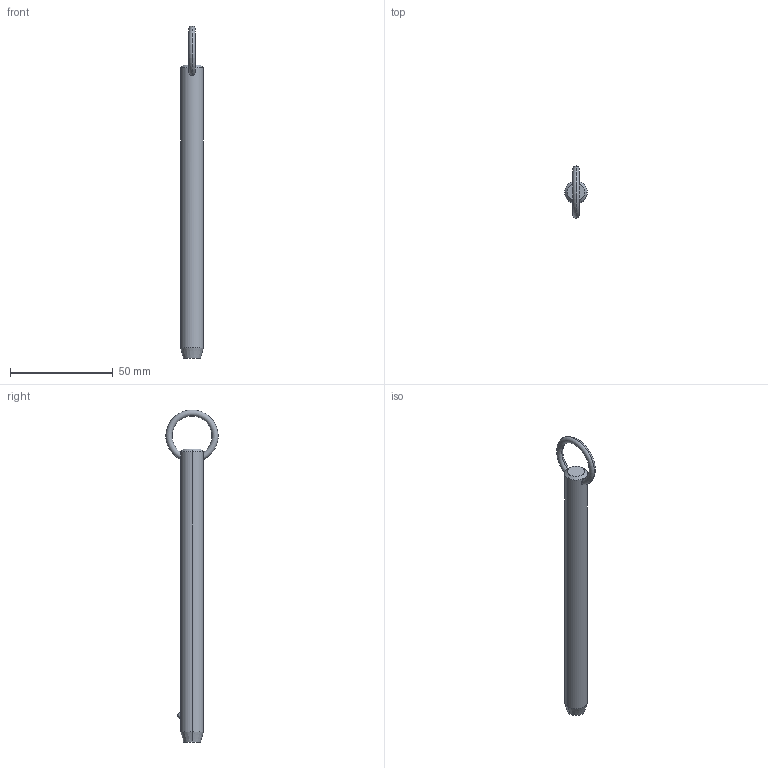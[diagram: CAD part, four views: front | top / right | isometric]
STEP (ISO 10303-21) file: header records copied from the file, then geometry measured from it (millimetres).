
FILE_DESCRIPTION (( 'STEP AP203' ), '1' );
FILE_NAME ('P1250.050-480.step', '2019-07-29T20:38:04', ( '' ), ( '' ), 'SwSTEP 2.0', 'SolidWorks 2017', '' );
FILE_SCHEMA (( 'CONFIG_CONTROL_DESIGN' ));
Length unit declared in the file: millimetre
Products named in the file (1): P1250.050-480
Bounding box: 11.1 x 25.32 x 161.45 mm (x, y, z)
Volume: 14072.3 mm3; surface area: 5621.9 mm2
Topology: 1 solids, 1 shells, 12 faces, 28 edges, 17 vertices
Faces by surface type: cone 4, torus 2, sphere 2, cylinder 2, plane 2
Entity records: 523 total; most frequent: CARTESIAN_POINT 190, DIRECTION 56, ORIENTED_EDGE 48, AXIS2_PLACEMENT_3D 25, EDGE_CURVE 24, EDGE_LOOP 15, VERTEX_POINT 15, ADVANCED_FACE 12
